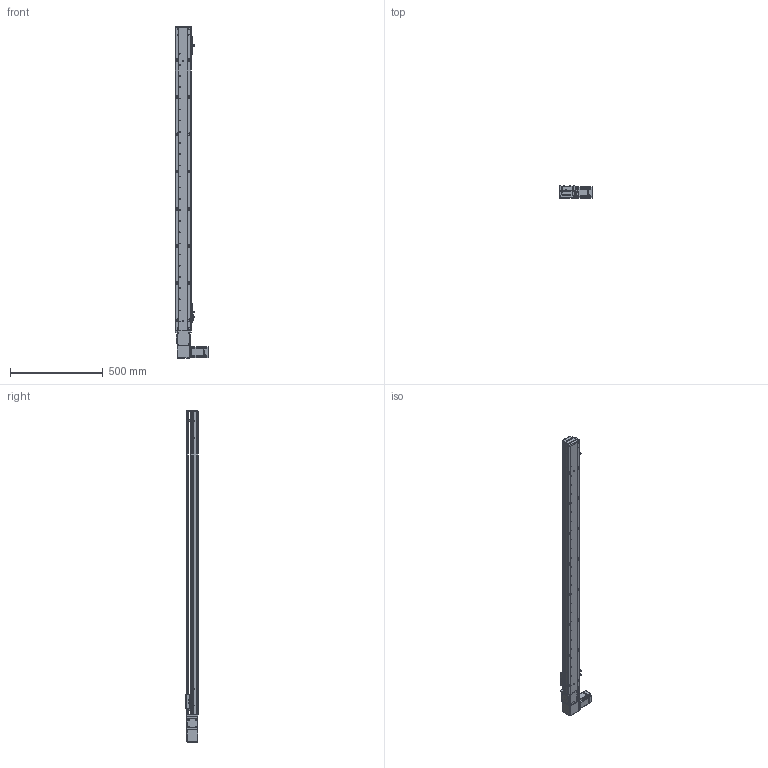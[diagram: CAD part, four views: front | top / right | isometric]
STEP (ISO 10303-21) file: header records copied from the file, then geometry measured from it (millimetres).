
FILE_DESCRIPTION (( 'STEP AP203' ), '1' );
FILE_NAME ('RY80-T-300-RK.SLDASM_1450.step', '2021-03-01T02:08:00', ( '盈信电脑' ), ( '东莞市道滘镇水果街19号' ), 'SwSTEP 2.0', 'SolidWorks 2012', '' );
FILE_SCHEMA (( 'CONFIG_CONTROL_DESIGN' ));
Length unit declared in the file: millimetre
Products named in the file (20): RY80-T-300-RK.SLDASM_1450; RY100-T粣創揤踡裔; 滅袉蝶18-10; RY80-T肮祭謫俋欶; RY80-T翋肮祭謫裔啣; RY80-T-M4蹟翐; RY80-T肮祭湍揤輸2; RY80-T粣創揤踡輸; RY80-T萇儂假蚾啣; RY80-T-翋肮祭謫釱; RY80-T肮祭湍揤輸1; 侂狟200W萇儂; 672嫖萇羲壽假蚾釱; 1; 覜茼ん672; RY80俋离覜茼え; RY80-T-300-RK倰第菁釱_1450; RY80-T-300-RK倰第奻裔啣_1450; RY80-T綴裔啣; RY80-T肮祭謫臏賑輸
Assembly tree (25 placements, depth 3):
  RY80-T-300-RK.SLDASM_1450
    RY80-T-300-RK倰第菁釱_1450
    RY80-T肮祭謫臏賑輸
    RY80-T-300-RK倰第奻裔啣_1450
    RY80-T綴裔啣
    672嫖萇羲壽假蚾釱  x2
    覜茼ん672  x3
    RY80俋离覜茼え
    侂狟200W萇儂
      1
    RY80-T-翋肮祭謫釱
    RY80-T萇儂假蚾啣
    RY80-T肮祭湍揤輸1
    RY80-T肮祭湍揤輸2
    RY80-T粣創揤踡輸
    RY80-T-M4蹟翐  x2
    RY80-T翋肮祭謫裔啣  x2
    RY80-T肮祭謫俋欶
    滅袉蝶18-10  x2
    RY100-T粣創揤踡裔
Bounding box: 180 x 65 x 1785 mm (x, y, z)
Volume: 2776843.9 mm3; surface area: 1175912.9 mm2
Topology: 24 solids, 24 shells, 2541 faces, 7014 edges, 4559 vertices
Faces by surface type: plane 1340, cylinder 995, cone 150, bspline 56
Entity records: 80448 total; most frequent: CARTESIAN_POINT 19671, ORIENTED_EDGE 12472, DIRECTION 11724, EDGE_CURVE 6236, VERTEX_POINT 4100, AXIS2_PLACEMENT_3D 3969, LINE 3786, VECTOR 3786
